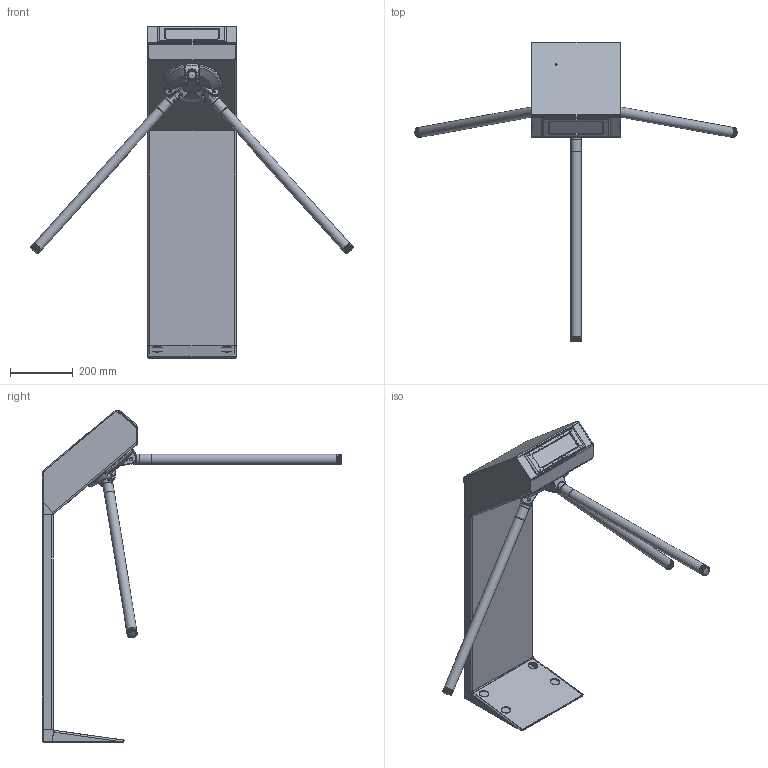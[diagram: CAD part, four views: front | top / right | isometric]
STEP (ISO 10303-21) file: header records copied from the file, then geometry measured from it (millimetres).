
FILE_DESCRIPTION(/* description */ ('Unknown'),/* implementation_level */ '2;1');
FILE_NAME(/* name */ 'TTR-07A',/* time_stamp */ '2026-04-16T11:55:07+03:00',/* author */ ('Unknown'),/* organization */ ('Unknown'),/* preprocessor_version */ 'ST-DEVELOPER v18.102',/* originating_system */ 'Solid Edge',/* authorisation */ 'Unknown');
FILE_SCHEMA (('CONFIG_CONTROL_DESIGN'));
Products named in the file (1): TTR-07A
Bounding box: 1023.99 x 952.49 x 1054.58 mm (x, y, z)
Volume: 3933838.2 mm3; surface area: 2468530.5 mm2
Topology: 33 solids, 33 shells, 1778 faces, 4473 edges, 2777 vertices
Faces by surface type: plane 585, cylinder 532, bspline 304, cone 170, torus 152, sphere 35
Full cylindrical faces by diameter (mm): 3.242 x15, 4.1 x1, 4.2 x17, 4.773 x1, 5 x9, 6 x3, 6.466 x3, 7 x6, 8 x11, 9 x7, 10 x22, 12 x4, 13 x3, 14.5 x3, 16 x1, 20 x1, 24 x3, 26.2 x12, 27 x3, 28.5 x6, 29.2 x3, 29.9 x3, 30 x5, 32 x6, 185 x1, 188 x1
Entity records: 73460 total; most frequent: CARTESIAN_POINT 25350, ORIENTED_EDGE 8108, DIRECTION 7483, EDGE_CURVE 4054, AXIS2_PLACEMENT_3D 3000, VERTEX_POINT 2684, FACE_BOUND 2284, EDGE_LOOP 2266
